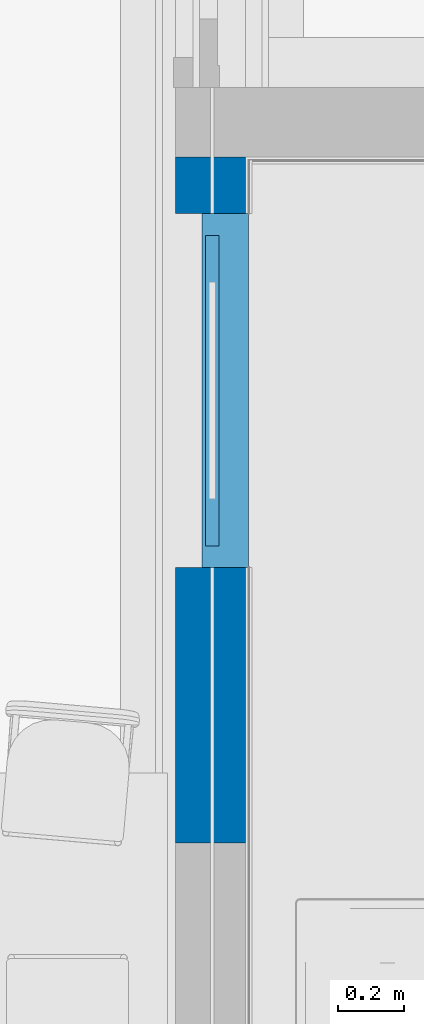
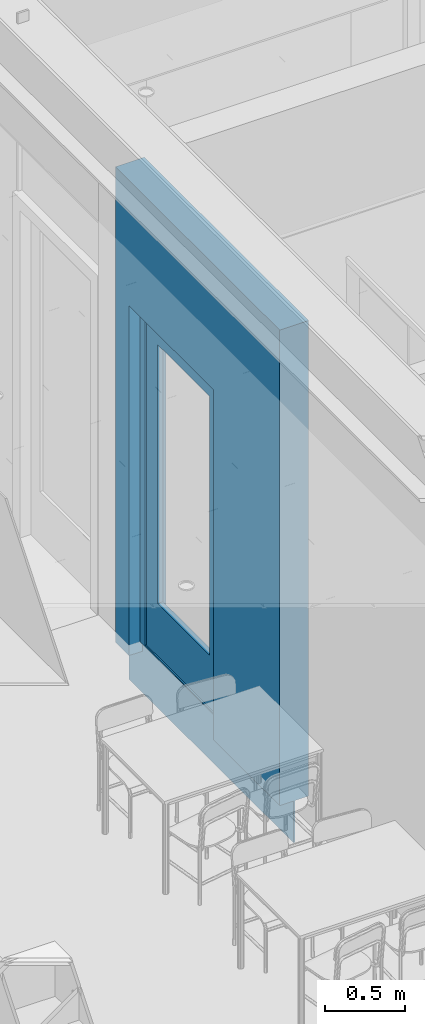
# One storey, part 28 of 260: 2 building element parts, 1 wall, 1 opening, 1 element without a shape of its own.
"""IFC2X3 building model written with IfcOpenShell, lengths in millimetres."""

import ifcopenshell
import ifcopenshell.guid

model = None  # the IFC model being written
_history = None  # IfcOwnerHistory: only IFC2X3 demands one
_inside = {}  # id of a spatial element -> (the spatial element, [elements in it])
_under = {}  # id of a project, library or spatial element -> (it, [spatial elements below it])
_declared = {}  # id of a project -> (the project, [libraries it declares])
_typed = {}  # id of a type object -> (the type object, [elements of that type])
_made_of = {}  # id of a material, layer set ... -> (it, [elements and type objects made of it])


def new_model(schema):
    """Start an empty IFC model of exactly this schema.

    Asked for "IFC4X3", IfcOpenShell would pick the latest addendum, in which some entities
    have other attributes; the version numbers below select the first issue.
    IFC2X3 requires an IfcOwnerHistory on every rooted entity: one is made here for all.
    """
    global model, _history
    if schema == "IFC4X3":
        model = ifcopenshell.file(schema_version=(4, 3, 0, 0))
    else:
        model = ifcopenshell.file(schema=schema)
    _inside.clear()
    _under.clear()
    _declared.clear()
    _typed.clear()
    _made_of.clear()
    _history = None
    if model.schema == "IFC2X3":
        org = make("IfcOrganization", Name="unknown")
        user = make(
            "IfcPersonAndOrganization",
            ThePerson=make("IfcPerson", FamilyName="unknown"),
            TheOrganization=org,
        )
        app = make(
            "IfcApplication",
            ApplicationDeveloper=org,
            Version="unknown",
            ApplicationFullName="unknown",
            ApplicationIdentifier="unknown",
        )
        _history = make(
            "IfcOwnerHistory",
            OwningUser=user,
            OwningApplication=app,
            ChangeAction="ADDED",
            CreationDate=0,
        )
    return model


def make(cls, **values):
    """One entity of the class cls with the attributes given. An attribute that is None is left unset."""
    return model.create_entity(
        cls, **{name: value for name, value in values.items() if value is not None}
    )


def entity(cls, *values):
    """Any entity or typed value of the class cls, its attributes in the order of the schema. None: left unset."""
    e = model.create_entity(cls)
    for i, value in enumerate(values):
        if value is not None:
            e[i] = value
    return e


def rooted(cls, **values):
    """An entity with a GlobalId (a new one), such as an element, a storey or a relation."""
    return make(cls, GlobalId=ifcopenshell.guid.new(), OwnerHistory=_history, **values)


def si_unit(unit_type, name, prefix=None):
    """IfcSIUnit, for example si_unit("LENGTHUNIT", "METRE", prefix="MILLI")."""
    return make("IfcSIUnit", UnitType=unit_type, Prefix=prefix, Name=name)


def converted_unit(unit_type, name, factor, base, dimensions=None, offset=None):
    """IfcConversionBasedUnit, such as the inch: factor (a typed value) times the base unit."""
    return make(
        "IfcConversionBasedUnit"
        if offset is None
        else "IfcConversionBasedUnitWithOffset",
        ConversionOffset=offset,
        Dimensions=None
        if dimensions is None
        else entity("IfcDimensionalExponents", *dimensions),
        UnitType=unit_type,
        Name=name,
        ConversionFactor=make(
            "IfcMeasureWithUnit", ValueComponent=factor, UnitComponent=base
        ),
    )


def derived_unit(unit_type, elements):
    """IfcDerivedUnit: a product of units, each with its exponent."""
    return make(
        "IfcDerivedUnit",
        Elements=[
            make("IfcDerivedUnitElement", Unit=unit, Exponent=power)
            for unit, power in elements
        ],
        UnitType=unit_type,
    )


def money_unit(currency):
    """IfcMonetaryUnit."""
    return make("IfcMonetaryUnit", Currency=currency)


def assignment(units):
    """IfcUnitAssignment: the units of a project."""
    return None if units is None else make("IfcUnitAssignment", Units=units)


def point(xyz):
    """IfcCartesianPoint."""
    return None if xyz is None else make("IfcCartesianPoint", Coordinates=xyz)


def direction(xyz):
    """IfcDirection."""
    return None if xyz is None else make("IfcDirection", DirectionRatios=xyz)


def frame(location, z_axis=None, x_axis=None):
    """IfcAxis2Placement3D, a coordinate frame: its origin and axes. An axis left out is left unset."""
    return make(
        "IfcAxis2Placement3D",
        Location=point(location),
        Axis=direction(z_axis),
        RefDirection=direction(x_axis),
    )


def origin_with_axes():
    """The frame at (0, 0, 0) with the z axis (0, 0, 1) and the x axis (1, 0, 0) written out."""
    return frame((0.0, 0.0, 0.0), z_axis=(0.0, 0.0, 1.0), x_axis=(1.0, 0.0, 0.0))


def place(relative_to, where):
    """IfcLocalPlacement: puts the frame where relative to a parent placement (None: the world)."""
    return make(
        "IfcLocalPlacement", PlacementRelTo=relative_to, RelativePlacement=where
    )


def context(
    kind, dimensions, precision=None, world=None, true_north=None, identifier=None
):
    """IfcGeometricRepresentationContext, for example the 3D "Model" context."""
    return make(
        "IfcGeometricRepresentationContext",
        ContextIdentifier=identifier,
        ContextType=kind,
        CoordinateSpaceDimension=dimensions,
        Precision=precision,
        WorldCoordinateSystem=world,
        TrueNorth=true_north,
    )


def subcontext(parent, identifier, kind, view, scale=None):
    """IfcGeometricRepresentationSubContext, for example "Body" below "Model"."""
    return make(
        "IfcGeometricRepresentationSubContext",
        ContextIdentifier=identifier,
        ContextType=kind,
        ParentContext=parent,
        TargetScale=scale,
        TargetView=view,
    )


def project(units=None, contexts=None):
    """IfcProject with its units and contexts."""
    return rooted(
        "IfcProject",
        Name="project",
        RepresentationContexts=contexts,
        UnitsInContext=assignment(units),
    )


def spatial(cls, under=None, at=None, **own):
    """A site, building, storey or space (cls), placed at a placement, below another one or the project."""
    s = rooted(cls, ObjectPlacement=at, **own)
    if under is not None:
        _under.setdefault(under.id(), (under, []))[1].append(s)
    return s


def faces_of(points, faces, orient=None, outer=None):
    """IfcFace entities. A face is a list of loops; a loop is a list of indices into points, from 0.

    orient and outer hold one flag for each loop. By default every Orientation is true, the
    first loop of a face is its IfcFaceOuterBound and the others are IfcFaceBound.
    """
    made = []
    for i, loops in enumerate(faces):
        bounds = []
        for j, loop in enumerate(loops):
            is_outer = j == 0 if outer is None else outer[i][j]
            bounds.append(
                make(
                    "IfcFaceOuterBound" if is_outer else "IfcFaceBound",
                    Bound=make("IfcPolyLoop", Polygon=[points[k] for k in loop]),
                    Orientation=True if orient is None else orient[i][j],
                )
            )
        made.append(make("IfcFace", Bounds=bounds))
    return made


def faceted_brep(points, faces, orient=None, outer=None, voids=None):
    """IfcFacetedBrep: a solid bounded by flat faces; with voids (closed shells), ...WithVoids."""
    shared = [point(p) for p in points]
    hull = make("IfcClosedShell", CfsFaces=faces_of(shared, faces, orient, outer))
    if voids is None:
        return make("IfcFacetedBrep", Outer=hull)
    return make(
        "IfcFacetedBrepWithVoids",
        Outer=hull,
        Voids=[
            make(cls, CfsFaces=faces_of(shared, fs, o, b)) for cls, fs, o, b in voids
        ],
    )


def shape(context_of_items, identifier, shape_type, items):
    """IfcShapeRepresentation: the items that make up one representation, for example the "Body"."""
    return make(
        "IfcShapeRepresentation",
        ContextOfItems=context_of_items,
        RepresentationIdentifier=identifier,
        RepresentationType=shape_type,
        Items=items,
    )


def source(mapping_origin, context_of_items, identifier, shape_type, items):
    """IfcRepresentationMap: a shape defined once, which mapped items show again and again."""
    return make(
        "IfcRepresentationMap",
        MappingOrigin=mapping_origin,
        MappedRepresentation=shape(context_of_items, identifier, shape_type, items),
    )


def transform(
    local_origin,
    x_axis=None,
    y_axis=None,
    z_axis=None,
    scale=None,
    scale2=None,
    scale3=None,
    uniform=True,
):
    """IfcCartesianTransformationOperator3D, or its non-uniform kind. x_axis, y_axis, z_axis: its Axis1, 2, 3."""
    if uniform:
        return make(
            "IfcCartesianTransformationOperator3D",
            Axis1=direction(x_axis),
            Axis2=direction(y_axis),
            LocalOrigin=point(local_origin),
            Scale=scale,
            Axis3=direction(z_axis),
        )
    return make(
        "IfcCartesianTransformationOperator3DnonUniform",
        Axis1=direction(x_axis),
        Axis2=direction(y_axis),
        LocalOrigin=point(local_origin),
        Scale=scale,
        Axis3=direction(z_axis),
        Scale2=scale2,
        Scale3=scale3,
    )


def mapped(mapping_source, mapping_target):
    """IfcMappedItem: shows the shape of a source again, moved by a transform."""
    return make(
        "IfcMappedItem", MappingSource=mapping_source, MappingTarget=mapping_target
    )


def material(Name=None, Category=None):
    """IfcMaterial."""
    return make("IfcMaterial", Name=Name, Category=Category)


def made_of(thing, what):
    """Note that an element or type object is made of a material, layer set ...; save() writes the relation."""
    if what is not None:
        _made_of.setdefault(what.id(), (what, []))[1].append(thing)
    return thing


def type_object(cls, material=None, **own):
    """A type object (cls), such as IfcWallType, which elements share."""
    return made_of(rooted(cls, **own), material)


def element(
    cls,
    number,
    at=None,
    inside=None,
    cuts=None,
    type_object=None,
    material=None,
    context=None,
    identifier="Body",
    shape_type=None,
    held_by="IfcProductDefinitionShape",
    body=None,
    shapes=None,
    **own,
):
    """One element of the class cls, such as IfcWall. Its Tag is "e" and its number.

    at: its placement. inside: the storey or other place that contains it. cuts: it is an
    opening in that element (IfcRelVoidsElement). A single representation is given by context,
    identifier, shape_type and body (its items); several are given by shapes. held_by: the class
    of the entity that holds the representations. save() writes the other relations.
    """
    e = rooted(cls, Tag="e%d" % number, ObjectPlacement=at, **own)
    if body is not None:
        shapes = [shape(context, identifier, shape_type, body)]
    if shapes is not None:
        e.Representation = make(held_by, Representations=shapes)
    if inside is not None:
        _inside.setdefault(inside.id(), (inside, []))[1].append(e)
    if cuts is not None:
        rooted(
            "IfcRelVoidsElement", RelatingBuildingElement=cuts, RelatedOpeningElement=e
        )
    if type_object is not None:
        _typed.setdefault(type_object.id(), (type_object, []))[1].append(e)
    return made_of(e, material)


def fill(opening, filler):
    """IfcRelFillsElement: the door or window that sits in an opening."""
    return rooted(
        "IfcRelFillsElement",
        RelatingOpeningElement=opening,
        RelatedBuildingElement=filler,
    )


def aggregate(whole, parts):
    """IfcRelAggregates: a whole, such as a stair, and the parts it consists of."""
    return rooted("IfcRelAggregates", RelatingObject=whole, RelatedObjects=parts)


def save(model, path):
    """Write the relations noted so far, then the file.

    IfcRelAggregates (storeys below a building ...), IfcRelContainedInSpatialStructure (elements
    in a storey), IfcRelDefinesByType, IfcRelAssociatesMaterial and IfcRelDeclares: one each for
    every whole, place, type object, material and project.
    """
    for whole, parts in _under.values():
        aggregate(whole, parts)
    for where, things in _inside.values():
        rooted(
            "IfcRelContainedInSpatialStructure",
            RelatedElements=things,
            RelatingStructure=where,
        )
    for kind, things in _typed.values():
        rooted("IfcRelDefinesByType", RelatedObjects=things, RelatingType=kind)
    for what, things in _made_of.values():
        rooted("IfcRelAssociatesMaterial", RelatedObjects=things, RelatingMaterial=what)
    for by, libraries in _declared.values():
        rooted("IfcRelDeclares", RelatingContext=by, RelatedDefinitions=libraries)
    model.write(path)


model = new_model("IFC2X3")

# Units and contexts
model_context = context("Model", 3, precision=0.01, world=origin_with_axes(), true_north=direction((0.0, 1.0)))
plan_context = context("Plan", 3, precision=0.01, world=origin_with_axes(), true_north=direction((0.0, 1.0)))
body_context = subcontext(model_context, "Body", "Model", "MODEL_VIEW")
ifc_project = project(units=[si_unit("LENGTHUNIT", "METRE", prefix="MILLI"), si_unit("AREAUNIT", "SQUARE_METRE"), si_unit("VOLUMEUNIT", "CUBIC_METRE"), converted_unit("PLANEANGLEUNIT", "DEGREE", entity("IfcPlaneAngleMeasure", 0.0174532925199), si_unit("PLANEANGLEUNIT", "RADIAN"), dimensions=[0, 0, 0, 0, 0, 0, 0]), money_unit("EUR"), converted_unit("TIMEUNIT", "Year", entity("IfcTimeMeasure", 31556926.0), si_unit("TIMEUNIT", "SECOND"), dimensions=[0, 0, 1, 0, 0, 0, 0]), si_unit("MASSUNIT", "GRAM", prefix="KILO"), si_unit("THERMODYNAMICTEMPERATUREUNIT", "DEGREE_CELSIUS"), si_unit("LUMINOUSINTENSITYUNIT", "LUMEN"), si_unit("ENERGYUNIT", "JOULE", prefix="MEGA"), derived_unit("THERMALCONDUCTANCEUNIT", [(si_unit("POWERUNIT", "WATT"), 1), (si_unit("LENGTHUNIT", "METRE"), -1), (si_unit("THERMODYNAMICTEMPERATUREUNIT", "KELVIN"), -1)]), derived_unit("SPECIFICHEATCAPACITYUNIT", [(si_unit("ENERGYUNIT", "JOULE"), 1), (si_unit("MASSUNIT", "GRAM", prefix="KILO"), -1), (si_unit("THERMODYNAMICTEMPERATUREUNIT", "KELVIN"), -1)]), derived_unit("MASSDENSITYUNIT", [(si_unit("MASSUNIT", "GRAM", prefix="KILO"), 1), (si_unit("VOLUMEUNIT", "CUBIC_METRE"), -1)])], contexts=[model_context, plan_context])

# Site, building, storey
site_placement = place(None, origin_with_axes())
site = spatial("IfcSite", under=ifc_project, at=site_placement, Name="Site", CompositionType="ELEMENT")
building_placement = place(site_placement, origin_with_axes())
building = spatial("IfcBuilding", under=site, at=building_placement, Name="Naam gebouw", CompositionType="ELEMENT")
storey_placement = place(building_placement, frame((0.0, 0.0, 3960.0), z_axis=(0.0, 0.0, 1.0), x_axis=(1.0, 0.0, 0.0)))
storey = spatial("IfcBuildingStorey", under=building, at=storey_placement, Name="verdieping", CompositionType="ELEMENT", Elevation=3960.0)

# Wall, opening, door, building element parts
ifc_material_1 = material(Name="Beton gewapend prefab wand")
wall_type = type_object("IfcWallType", Name="Betonwand 200 210", PredefinedType="NOTDEFINED")
wall_placement = place(storey_placement, frame((35705.0, 34590.0, -400.0), z_axis=(0.0, 0.0, 1.0), x_axis=(0.0, 1.0, 0.0)))
wall = element("IfcWall", 1, at=wall_placement, inside=storey, type_object=wall_type, material=ifc_material_1, Name="21_21 betonwand", context=body_context, shape_type="Brep", body=[
    faceted_brep([(828.499930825, 110.0, 400.0), (1892.49993082, 110.0, 400.0), (1892.49993082, 110.0, 320.0), (2062.5, 110.0, 320.0), (2062.5, 110.0, 0.0), (0.0, 110.0, 0.0), (0.0, 110.0, 320.0), (828.499930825, 110.0, 320.0), (828.499930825, 99.9999259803, 400.0), (1892.49993082, 99.9999259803, 400.0), (1892.49993082, 210.0, 400.0), (1892.49993082, 210.0, 320.0), (2062.5, 210.0, 320.0), (2062.5, 210.0, 3960.0), (2062.5, 0.0, 3960.0), (2062.5, 0.0, 0.0), (1892.49991699, 0.0, 0.0), (1892.49991699, 99.9999259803, 0.0), (0.0, 99.9999259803, 0.0), (0.0, 0.0, 320.0), (0.0, 0.0, 3960.0), (0.0, 210.0, 3960.0), (0.0, 210.0, 320.0), (0.0, 99.9999259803, 320.0), (828.499930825, 210.0, 320.0), (828.499930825, 210.0, 400.0), (828.499930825, 99.9999259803, 320.0), (1892.49993082, 0.0, 400.0), (1892.49993082, 0.0, 3000.0), (1892.49993082, 210.0, 3000.0), (828.499930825, 0.0, 3000.0), (828.499930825, 0.0, 400.0), (828.499930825, 210.0, 3000.0), (828.499930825, 0.0, 320.0)], [[[0, 1, 2, 3, 4, 5, 6, 7]], [[8, 9, 1, 0]], [[1, 10, 11, 2]], [[11, 12, 3, 2]], [[4, 3, 12, 13, 14, 15]], [[16, 17, 18, 5, 4, 15]], [[19, 20, 21, 22, 6, 5, 18, 23]], [[7, 6, 22, 24]], [[0, 7, 24, 25]], [[9, 8, 26, 23, 18, 17]], [[1, 9, 27, 28, 29, 10]], [[30, 31, 8, 0, 25, 32]], [[11, 10, 29, 32, 25, 24, 22, 21, 13, 12]], [[13, 21, 20, 14]], [[31, 30, 28, 27, 16, 15, 14, 20, 19, 33]], [[27, 9, 17, 16]], [[33, 19, 23, 26]], [[8, 31, 33, 26]], [[28, 30, 32, 29]]]),
])
opening_placement = place(wall_placement, frame((1360.49993082, 0.0, 400.0), z_axis=(0.0, 0.0, 1.0), x_axis=(1.0, 0.0, 0.0)))
opening = element("IfcOpeningElement", 2, at=opening_placement, cuts=wall, Name="32_02.04", context=body_context, shape_type="Brep", body=[
    faceted_brep([(532.0, -210.0, 2600.0), (532.0, -210.0, 0.0), (532.0, 130.0, 0.0), (532.0, 130.0, 2600.0), (-532.0, -210.0, 2600.0), (-532.0, -210.0, 0.0), (-532.0, 130.0, 0.0), (-532.0, 130.0, 2600.0)], [[[0, 1, 2, 3]], [[0, 4, 5, 1]], [[1, 5, 6, 2]], [[3, 2, 6, 7]], [[4, 0, 3, 7]], [[5, 4, 7, 6]]]),
    faceted_brep([(532.0, 420.0, 0.0), (532.0, 420.0, 2600.0), (532.0, 130.0, 2600.0), (532.0, 130.0, 0.0), (-532.0, 420.0, 0.0), (-532.0, 420.0, 2600.0), (-532.0, 130.0, 2600.0), (-532.0, 130.0, 0.0)], [[[0, 1, 2, 3]], [[0, 4, 5, 1]], [[1, 5, 6, 2]], [[3, 2, 6, 7]], [[4, 0, 3, 7]], [[5, 4, 7, 6]]]),
])
door_style = type_object("IfcDoorStyle", Name="D1 25", ConstructionType="NOTDEFINED", OperationType="SINGLE_SWING_RIGHT", ParameterTakesPrecedence=False, Sizeable=False)
door_placement = place(opening_placement, frame((-532.0, 0.0, 0.0), z_axis=(0.0, 0.0, 1.0), x_axis=(1.0, 0.0, 0.0)))
door = element("IfcDoor", 3, at=door_placement, inside=storey, type_object=door_style, Name="32_02.04", ObjectType="DOOR", OverallHeight=2600.0, OverallWidth=1064.0)
fill(opening, door)
shared_shape_1 = source(origin_with_axes(), body_context, "Body", "Brep", [
    faceted_brep([(-467.0, -40.0, 10.0), (-442.0, -40.0, 10.0), (-442.0, -139.0, 10.0), (442.0, -139.0, 10.0), (442.0, -40.0, 10.0), (467.0, -40.0, 10.0), (467.0, 0.0, 10.0), (-467.0, 0.0, 10.0), (-467.0, -40.0, 0.0), (-442.0, -40.0, 0.0), (-442.0, -139.0, 0.0), (442.0, -139.0, 0.0), (442.0, -40.0, 0.0), (467.0, -40.0, 0.0), (467.0, 0.0, 0.0), (-467.0, 0.0, 0.0)], [[[0, 1, 2, 3, 4, 5, 6, 7]], [[1, 0, 8, 9]], [[10, 2, 1, 9]], [[2, 10, 11, 3]], [[3, 11, 12, 4]], [[5, 4, 12, 13]], [[13, 14, 6, 5]], [[15, 7, 6, 14]], [[8, 0, 7, 15]], [[9, 8, 15, 14, 13, 12, 11, 10]]]),
    faceted_brep([(-442.0, -50.0, 0.0), (-442.0, -50.0, 2510.0), (-442.0, -139.0, 2510.0), (-442.0, -139.0, 0.0), (-467.0, -50.0, 2510.0), (-467.0, -50.0, 0.0), (-467.0, 0.0, 2510.0), (-532.0, 0.0, 2510.0), (-532.0, -139.0, 2510.0), (-532.0, -139.0, 0.0), (-532.0, 0.0, 0.0), (-467.0, 0.0, 0.0)], [[[0, 1, 2, 3]], [[4, 1, 0, 5]], [[4, 6, 7, 8, 2, 1]], [[3, 2, 8, 9]], [[5, 0, 3, 9, 10, 11]], [[6, 4, 5, 11]], [[6, 11, 10, 7]], [[10, 9, 8, 7]]]),
    faceted_brep([(467.0, -50.0, 2510.0), (442.0, -50.0, 2510.0), (442.0, -139.0, 2510.0), (532.0, -139.0, 2510.0), (532.0, 0.0, 2510.0), (467.0, 0.0, 2510.0), (467.0, -50.0, 0.0), (442.0, -50.0, 0.0), (442.0, -139.0, 0.0), (532.0, -139.0, 0.0), (532.0, 0.0, 0.0), (467.0, 0.0, 0.0)], [[[0, 1, 2, 3, 4, 5]], [[1, 0, 6, 7]], [[1, 7, 8, 2]], [[3, 2, 8, 9]], [[4, 3, 9, 10]], [[11, 5, 4, 10]], [[0, 5, 11, 6]], [[6, 11, 10, 9, 8, 7]]]),
    faceted_brep([(-467.0, 0.0, 2535.0), (-467.0, 0.0, 2510.0), (-532.0, 0.0, 2510.0), (-532.0, 0.0, 2600.0), (532.0, 0.0, 2600.0), (532.0, 0.0, 2510.0), (467.0, 0.0, 2510.0), (467.0, 0.0, 2535.0), (-467.0, -50.0, 2535.0), (-467.0, -50.0, 2510.0), (-442.0, -50.0, 2510.0), (-442.0, -139.0, 2510.0), (-532.0, -139.0, 2510.0), (-532.0, -139.0, 2600.0), (532.0, -139.0, 2600.0), (532.0, -139.0, 2510.0), (467.0, -50.0, 2510.0), (442.0, -139.0, 2510.0), (442.0, -50.0, 2510.0), (467.0, -50.0, 2535.0)], [[[0, 1, 2, 3, 4, 5, 6, 7]], [[1, 0, 8, 9]], [[9, 10, 11, 12, 2, 1]], [[2, 12, 13, 3]], [[3, 13, 14, 4]], [[4, 14, 15, 5]], [[16, 6, 5, 15, 17, 18]], [[7, 6, 16, 19]], [[0, 7, 19, 8]], [[16, 18, 10, 9, 8, 19]], [[10, 18, 17, 11]], [[17, 15, 14, 13, 12, 11]]]),
])
building_element_part_1_placement = place(door_placement, origin_with_axes())
building_element_part_1 = element("IfcBuildingElementPart", 4, at=building_element_part_1_placement, context=body_context, shape_type="MappedRepresentation", body=[
    mapped(shared_shape_1, transform((532.0, 130.0, 0.0))),
])
ifc_material_2 = material(Name="Hout C")
shared_shape_2 = source(origin_with_axes(), body_context, "Body", "Brep", [
    faceted_brep([(467.0, -10.0, 10.0), (467.0, -50.0, 10.0), (-467.0, -50.0, 10.0), (-467.0, -10.0, 10.0), (467.0, -10.0, 2535.0), (467.0, -50.0, 2535.0), (-467.0, -50.0, 2535.0), (-326.397849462, -50.0, 2394.16334661), (326.397849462, -50.0, 2394.16334661), (326.397849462, -50.0, 412.390438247), (-326.397849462, -50.0, 412.390438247), (-467.0, -10.0, 2535.0), (-326.397849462, -10.0, 2394.16334661), (-326.397849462, -10.0, 412.390438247), (326.397849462, -10.0, 412.390438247), (326.397849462, -10.0, 2394.16334661)], [[[0, 1, 2, 3]], [[4, 5, 1, 0]], [[1, 5, 6, 2], [7, 8, 9, 10]], [[3, 2, 6, 11]], [[0, 3, 11, 4], [12, 13, 14, 15]], [[11, 6, 5, 4]], [[15, 8, 7, 12]], [[14, 9, 8, 15]], [[13, 10, 9, 14]], [[12, 7, 10, 13]]]),
])
building_element_part_2_placement = place(door_placement, origin_with_axes())
building_element_part_2 = element("IfcBuildingElementPart", 5, at=building_element_part_2_placement, material=ifc_material_2, Name="Hout C", context=body_context, shape_type="MappedRepresentation", body=[
    mapped(shared_shape_2, transform((532.0, 130.0, 0.0))),
])
aggregate(door, [building_element_part_1, building_element_part_2])

save(model, "model.ifc")
